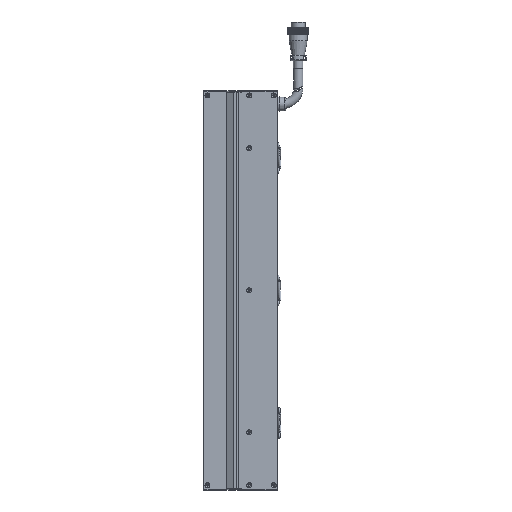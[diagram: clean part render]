
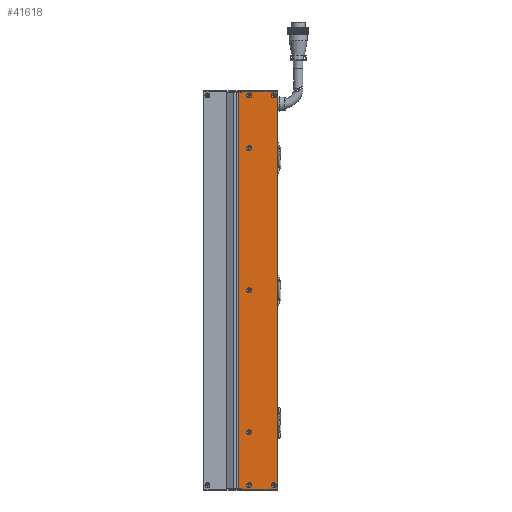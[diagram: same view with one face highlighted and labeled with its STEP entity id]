
A CAD part, left-side view. The second image highlights one B-rep face of the part: STEP entity #41618.
In plain terms, the highlighted planar face has unit normal (-1, 0, 0).
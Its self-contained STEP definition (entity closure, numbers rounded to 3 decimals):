
#29 = EDGE_CURVE ( 'NONE', #97926, #97926, #106657, .T. ) ;
#279 = ORIENTED_EDGE ( 'NONE', *, *, #105482, .T. ) ;
#573 = AXIS2_PLACEMENT_3D ( 'NONE', #64721, #90588, #71809 ) ;
#1242 = EDGE_CURVE ( 'NONE', #100963, #15649, #91554, .T. ) ;
#4602 = VERTEX_POINT ( 'NONE', #99143 ) ;
#5072 = DIRECTION ( 'NONE',  ( 0., -1., 0. ) ) ;
#5350 = VECTOR ( 'NONE', #75336, 1000. ) ;
#5423 = VECTOR ( 'NONE', #25136, 1000. ) ;
#6168 = DIRECTION ( 'NONE',  ( 0., 0., -1. ) ) ;
#8073 = VECTOR ( 'NONE', #30150, 1000. ) ;
#8849 = VERTEX_POINT ( 'NONE', #111496 ) ;
#9015 = CARTESIAN_POINT ( 'NONE',  ( -24.998, -36.5, 250.15 ) ) ;
#9351 = ORIENTED_EDGE ( 'NONE', *, *, #85073, .F. ) ;
#10284 = FACE_BOUND ( 'NONE', #14840, .T. ) ;
#13721 = EDGE_CURVE ( 'NONE', #77589, #77589, #75379, .T. ) ;
#14840 = EDGE_LOOP ( 'NONE', ( #58258 ) ) ;
#14841 = VERTEX_POINT ( 'NONE', #50663 ) ;
#15093 = DIRECTION ( 'NONE',  ( -1., 0., 0. ) ) ;
#15649 = VERTEX_POINT ( 'NONE', #57501 ) ;
#16228 = PLANE ( 'NONE',  #44745 ) ;
#16743 = LINE ( 'NONE', #33215, #32944 ) ;
#17765 = DIRECTION ( 'NONE',  ( -1., 0., 0. ) ) ;
#17860 = AXIS2_PLACEMENT_3D ( 'NONE', #66832, #15093, #75393 ) ;
#19413 = VERTEX_POINT ( 'NONE', #22441 ) ;
#20164 = CIRCLE ( 'NONE', #60740, 3.15 ) ;
#20630 = EDGE_CURVE ( 'NONE', #8849, #8849, #83005, .T. ) ;
#22429 = EDGE_CURVE ( 'NONE', #102386, #100963, #16743, .T. ) ;
#22441 = CARTESIAN_POINT ( 'NONE',  ( -24.998, -67.5, -243.85 ) ) ;
#23483 = CARTESIAN_POINT ( 'NONE',  ( -24.998, -23.25, 251. ) ) ;
#24268 = ORIENTED_EDGE ( 'NONE', *, *, #33643, .F. ) ;
#24601 = VERTEX_POINT ( 'NONE', #30064 ) ;
#24875 = DIRECTION ( 'NONE',  ( 0., 0., -1. ) ) ;
#25049 = EDGE_CURVE ( 'NONE', #24601, #102386, #91998, .T. ) ;
#25136 = DIRECTION ( 'NONE',  ( 0., 1., 0. ) ) ;
#28460 = EDGE_LOOP ( 'NONE', ( #42134 ) ) ;
#29140 = FACE_BOUND ( 'NONE', #78665, .T. ) ;
#29392 = CARTESIAN_POINT ( 'NONE',  ( -24.998, -72., 251. ) ) ;
#30064 = CARTESIAN_POINT ( 'NONE',  ( -24.998, -23.25, -251. ) ) ;
#30150 = DIRECTION ( 'NONE',  ( 0., 0., 1. ) ) ;
#30449 = FACE_BOUND ( 'NONE', #78150, .T. ) ;
#32629 = ORIENTED_EDGE ( 'NONE', *, *, #72592, .F. ) ;
#32944 = VECTOR ( 'NONE', #6168, 1000. ) ;
#33007 = VERTEX_POINT ( 'NONE', #68252 ) ;
#33215 = CARTESIAN_POINT ( 'NONE',  ( -24.998, -26.5, -244. ) ) ;
#33643 = EDGE_CURVE ( 'NONE', #33007, #33007, #109011, .T. ) ;
#36633 = ORIENTED_EDGE ( 'NONE', *, *, #29, .F. ) ;
#37317 = ORIENTED_EDGE ( 'NONE', *, *, #82567, .F. ) ;
#39197 = CIRCLE ( 'NONE', #17860, 3.15 ) ;
#39873 = CARTESIAN_POINT ( 'NONE',  ( -24.998, -36.5, -247. ) ) ;
#40545 = DIRECTION ( 'NONE',  ( -1., 0., 0. ) ) ;
#41228 = FACE_OUTER_BOUND ( 'NONE', #78318, .T. ) ;
#41618 = ADVANCED_FACE ( 'NONE', ( #10284, #100670, #75045, #52099, #104675, #30449, #29140, #41228 ), #16228, .F. ) ;
#42134 = ORIENTED_EDGE ( 'NONE', *, *, #20630, .F. ) ;
#43387 = CARTESIAN_POINT ( 'NONE',  ( -24.998, -36.5, 180. ) ) ;
#44166 = ORIENTED_EDGE ( 'NONE', *, *, #94862, .T. ) ;
#44745 = AXIS2_PLACEMENT_3D ( 'NONE', #76915, #76539, #24875 ) ;
#45952 = LINE ( 'NONE', #108309, #106640 ) ;
#46034 = DIRECTION ( 'NONE',  ( -1., 0., 0. ) ) ;
#46157 = VECTOR ( 'NONE', #98180, 1000. ) ;
#48391 = EDGE_CURVE ( 'NONE', #78756, #78756, #39197, .T. ) ;
#48980 = CARTESIAN_POINT ( 'NONE',  ( -24.998, -36.5, -176.85 ) ) ;
#49260 = DIRECTION ( 'NONE',  ( 0., 0., 1. ) ) ;
#50045 = CARTESIAN_POINT ( 'NONE',  ( -24.998, -26.5, 244. ) ) ;
#50663 = CARTESIAN_POINT ( 'NONE',  ( -24.998, -26.5, 252.5 ) ) ;
#52099 = FACE_BOUND ( 'NONE', #64918, .T. ) ;
#52343 = ORIENTED_EDGE ( 'NONE', *, *, #25049, .T. ) ;
#53379 = ORIENTED_EDGE ( 'NONE', *, *, #1242, .T. ) ;
#56968 = CARTESIAN_POINT ( 'NONE',  ( -24.998, -36.5, 183.15 ) ) ;
#57501 = CARTESIAN_POINT ( 'NONE',  ( -24.998, -72., -252.5 ) ) ;
#57697 = DIRECTION ( 'NONE',  ( 0., 0., 1. ) ) ;
#58258 = ORIENTED_EDGE ( 'NONE', *, *, #13721, .F. ) ;
#60360 = AXIS2_PLACEMENT_3D ( 'NONE', #63116, #46034, #106355 ) ;
#60740 = AXIS2_PLACEMENT_3D ( 'NONE', #75320, #92994, #110721 ) ;
#62142 = LINE ( 'NONE', #86139, #5423 ) ;
#63116 = CARTESIAN_POINT ( 'NONE',  ( -24.998, -36.5, -180. ) ) ;
#63596 = EDGE_CURVE ( 'NONE', #92960, #4602, #45952, .T. ) ;
#64208 = ORIENTED_EDGE ( 'NONE', *, *, #48391, .F. ) ;
#64393 = CIRCLE ( 'NONE', #111473, 3.15 ) ;
#64721 = CARTESIAN_POINT ( 'NONE',  ( -24.998, -36.5, 0. ) ) ;
#64918 = EDGE_LOOP ( 'NONE', ( #36633 ) ) ;
#66547 = EDGE_LOOP ( 'NONE', ( #64208 ) ) ;
#66832 = CARTESIAN_POINT ( 'NONE',  ( -24.998, -36.5, 247. ) ) ;
#68252 = CARTESIAN_POINT ( 'NONE',  ( -24.998, -67.5, 250.15 ) ) ;
#69273 = CARTESIAN_POINT ( 'NONE',  ( -24.998, -23.25, -251. ) ) ;
#70196 = LINE ( 'NONE', #29392, #8073 ) ;
#71809 = DIRECTION ( 'NONE',  ( 0., 0., 1. ) ) ;
#72592 = EDGE_CURVE ( 'NONE', #109736, #109736, #64393, .T. ) ;
#74206 = LINE ( 'NONE', #50045, #82265 ) ;
#75045 = FACE_BOUND ( 'NONE', #66547, .T. ) ;
#75320 = CARTESIAN_POINT ( 'NONE',  ( -24.998, -67.5, -247. ) ) ;
#75336 = DIRECTION ( 'NONE',  ( 0., -1., 0. ) ) ;
#75379 = CIRCLE ( 'NONE', #60360, 3.15 ) ;
#75393 = DIRECTION ( 'NONE',  ( 0., 0., 1. ) ) ;
#75481 = AXIS2_PLACEMENT_3D ( 'NONE', #109583, #40545, #49260 ) ;
#75686 = DIRECTION ( 'NONE',  ( 0., 0., -1. ) ) ;
#76539 = DIRECTION ( 'NONE',  ( 1., 0., 0. ) ) ;
#76752 = VECTOR ( 'NONE', #77482, 1000. ) ;
#76915 = CARTESIAN_POINT ( 'NONE',  ( -24.998, -72.5, 251. ) ) ;
#76935 = ORIENTED_EDGE ( 'NONE', *, *, #63596, .F. ) ;
#77482 = DIRECTION ( 'NONE',  ( 0., 0., 1. ) ) ;
#77589 = VERTEX_POINT ( 'NONE', #48980 ) ;
#78054 = DIRECTION ( 'NONE',  ( 0., 0., 1. ) ) ;
#78150 = EDGE_LOOP ( 'NONE', ( #37317 ) ) ;
#78318 = EDGE_LOOP ( 'NONE', ( #52343, #111683, #53379, #279, #88679, #44166, #76935, #9351 ) ) ;
#78665 = EDGE_LOOP ( 'NONE', ( #32629 ) ) ;
#78756 = VERTEX_POINT ( 'NONE', #9015 ) ;
#82132 = LINE ( 'NONE', #69273, #76752 ) ;
#82265 = VECTOR ( 'NONE', #75686, 1000. ) ;
#82567 = EDGE_CURVE ( 'NONE', #19413, #19413, #20164, .T. ) ;
#82688 = CARTESIAN_POINT ( 'NONE',  ( -24.998, -26.5, -251. ) ) ;
#83005 = CIRCLE ( 'NONE', #573, 3.15 ) ;
#83215 = CARTESIAN_POINT ( 'NONE',  ( -24.998, -72.5, -252.5 ) ) ;
#85073 = EDGE_CURVE ( 'NONE', #24601, #92960, #82132, .T. ) ;
#86139 = CARTESIAN_POINT ( 'NONE',  ( -24.998, -72.5, 252.5 ) ) ;
#88679 = ORIENTED_EDGE ( 'NONE', *, *, #93294, .T. ) ;
#88703 = CARTESIAN_POINT ( 'NONE',  ( -24.998, -72.5, -251. ) ) ;
#89913 = CARTESIAN_POINT ( 'NONE',  ( -24.998, -36.5, -243.85 ) ) ;
#90588 = DIRECTION ( 'NONE',  ( -1., 0., 0. ) ) ;
#91554 = LINE ( 'NONE', #83215, #5350 ) ;
#91998 = LINE ( 'NONE', #88703, #46157 ) ;
#92960 = VERTEX_POINT ( 'NONE', #23483 ) ;
#92994 = DIRECTION ( 'NONE',  ( -1., 0., 0. ) ) ;
#93294 = EDGE_CURVE ( 'NONE', #106884, #14841, #62142, .T. ) ;
#94862 = EDGE_CURVE ( 'NONE', #14841, #4602, #74206, .T. ) ;
#97926 = VERTEX_POINT ( 'NONE', #56968 ) ;
#98180 = DIRECTION ( 'NONE',  ( 0., -1., 0. ) ) ;
#99143 = CARTESIAN_POINT ( 'NONE',  ( -24.998, -26.5, 251. ) ) ;
#99870 = DIRECTION ( 'NONE',  ( -1., 0., 0. ) ) ;
#100670 = FACE_BOUND ( 'NONE', #103084, .T. ) ;
#100963 = VERTEX_POINT ( 'NONE', #102115 ) ;
#102115 = CARTESIAN_POINT ( 'NONE',  ( -24.998, -26.5, -252.5 ) ) ;
#102386 = VERTEX_POINT ( 'NONE', #82688 ) ;
#103084 = EDGE_LOOP ( 'NONE', ( #24268 ) ) ;
#104319 = CARTESIAN_POINT ( 'NONE',  ( -24.998, -72., 252.5 ) ) ;
#104675 = FACE_BOUND ( 'NONE', #28460, .T. ) ;
#105482 = EDGE_CURVE ( 'NONE', #15649, #106884, #70196, .T. ) ;
#106355 = DIRECTION ( 'NONE',  ( 0., 0., 1. ) ) ;
#106640 = VECTOR ( 'NONE', #5072, 1000. ) ;
#106657 = CIRCLE ( 'NONE', #110972, 3.15 ) ;
#106884 = VERTEX_POINT ( 'NONE', #104319 ) ;
#108309 = CARTESIAN_POINT ( 'NONE',  ( -24.998, -72.5, 251. ) ) ;
#109011 = CIRCLE ( 'NONE', #75481, 3.15 ) ;
#109583 = CARTESIAN_POINT ( 'NONE',  ( -24.998, -67.5, 247. ) ) ;
#109736 = VERTEX_POINT ( 'NONE', #89913 ) ;
#110721 = DIRECTION ( 'NONE',  ( 0., 0., 1. ) ) ;
#110972 = AXIS2_PLACEMENT_3D ( 'NONE', #43387, #17765, #78054 ) ;
#111473 = AXIS2_PLACEMENT_3D ( 'NONE', #39873, #99870, #57697 ) ;
#111496 = CARTESIAN_POINT ( 'NONE',  ( -24.998, -36.5, 3.15 ) ) ;
#111683 = ORIENTED_EDGE ( 'NONE', *, *, #22429, .T. ) ;
